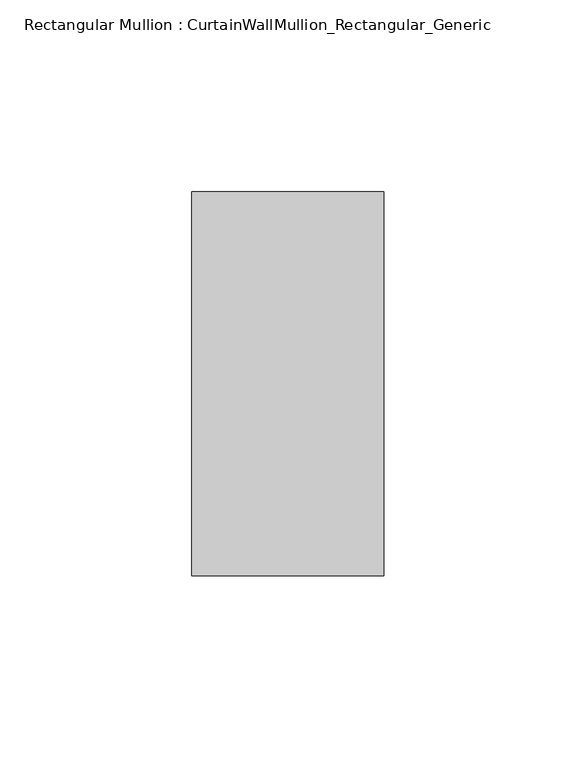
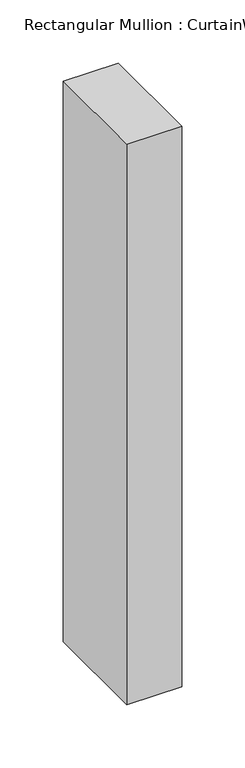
"""IFC4 building model written with IfcOpenShell, lengths in millimetres: member geometry, Rectangular Mullion : CurtainWallMullion_Rectangular_Generic."""

from ifc_helpers import new_model, si_unit, frame, origin, place, context, project, spatial, polyline, outline, extrude, source, transform, mapped, element, save


def rectangular_mullion_curtainwallmullion_rectangular_generic_46636cd4(model_context):
    return source(origin(), model_context, "Body", "SweptSolid", [
        extrude(outline(polyline([(25.0, 50.0), (25.0, -50.0), (-25.0, -50.0), (-25.0, 50.0), (25.0, 50.0)])), frame((0.0, 0.0, -540.0), z_axis=(0.0, 0.0, 1.0), x_axis=(1.0, 0.0, 0.0)), (0.0, 0.0, 1.0), 540.0),
    ])


if __name__ == "__main__":
    model = new_model("IFC4")
    model_context = context("Model", 3, world=origin())
    ifc_project = project(units=[si_unit("LENGTHUNIT", "METRE", prefix="MILLI")], contexts=[model_context])
    site = spatial("IfcSite", under=ifc_project)
    building = spatial("IfcBuilding", under=site)
    placement = place(None, origin())
    rectangular_mullion_curtainwallmullion_rectangular_generic_shape = rectangular_mullion_curtainwallmullion_rectangular_generic_46636cd4(model_context)
    element("IfcMember", 1, ObjectType="Rectangular Mullion : CurtainWallMullion_Rectangular_Generic", at=placement, inside=building, context=model_context, shape_type="MappedRepresentation", body=[
        mapped(rectangular_mullion_curtainwallmullion_rectangular_generic_shape, transform((0.0, 0.0, 0.0), x_axis=(1.0, 0.0, 0.0), y_axis=(0.0, 1.0, 0.0), z_axis=(0.0, 0.0, 1.0))),
    ])
    save(model, "model.ifc")
